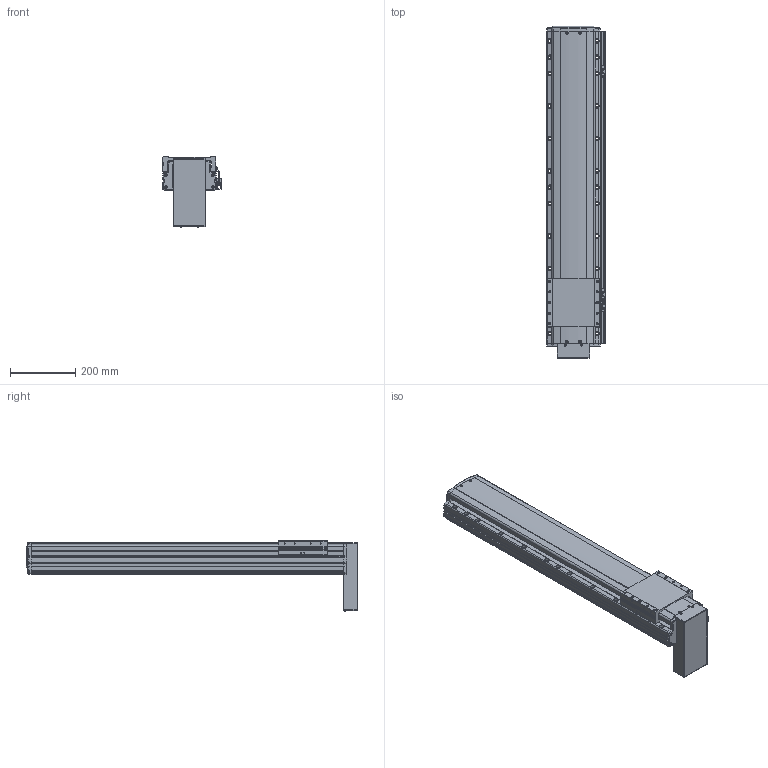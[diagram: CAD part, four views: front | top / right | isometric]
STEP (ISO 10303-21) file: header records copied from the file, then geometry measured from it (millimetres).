
FILE_DESCRIPTION(('STEP AP214'),'1');
FILE_NAME('Z:/Web/3D/PSA165/STP/PSA165-700 (3D)/PSA165ㅁㅁ-700PB+3SR.stp','2014-06-23T11:42:12',(' '),(' '),'Spatial InterOp 3D',' ',' ');
FILE_SCHEMA(('automotive_design'));
Length unit declared in the file: millimetre
Products named in the file (47): 스크루 : Round - M4.0 x 12.0; RRCV-PA160; BASE; 스크루 : Round - M4.0 x 10.0; RN15; Screw 20; SLIDE; FRCV; MTPL CV- PB; 스크루 : Round - M3.0 x 6.0; 1; 2; M3.0 x 6.0; SRL-16x17-360L; SGD-SAN150; EE-SX674; SBK-SX674-352; BHCS M4.0 x 10.0
Bounding box: 181 x 1020.8 x 215.96 mm (x, y, z)
Volume: 14541359.1 mm3; surface area: 1061637.3 mm2
Topology: 47 solids, 47 shells, 2676 faces, 7124 edges, 4572 vertices
Faces by surface type: plane 1533, cylinder 792, cone 238, sphere 72, bspline 25, torus 16
Entity records: 108111 total; most frequent: CARTESIAN_POINT 18465, DIRECTION 14287, ORIENTED_EDGE 13956, EDGE_CURVE 6978, AXIS2_PLACEMENT_3D 4814, LINE 4659, VECTOR 4659, VERTEX_POINT 4572
